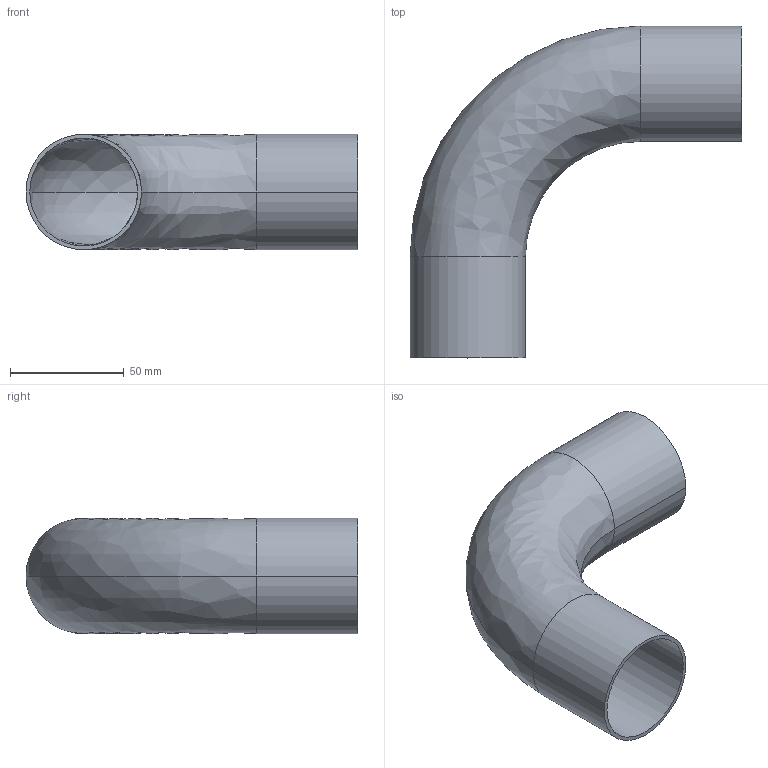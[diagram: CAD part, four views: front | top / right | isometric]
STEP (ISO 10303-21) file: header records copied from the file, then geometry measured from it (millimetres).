
FILE_DESCRIPTION (( 'STEP AP214' ), '1' );
FILE_NAME ('TE2S6L2.0-...STEP', '2016-05-22T10:28:20', ( 'eran' ), ( '' ), 'SwSTEP 2.0', 'SolidWorks 2016', '' );
FILE_SCHEMA (( 'AUTOMOTIVE_DESIGN' ));
Length unit declared in the file: millimetre
Products named in the file (1): TE2S6L2.0-..
Bounding box: 146.1 x 146.1 x 50.8 mm (x, y, z)
Volume: 53170.3 mm3; surface area: 64958.3 mm2
Topology: 1 solids, 1 shells, 14 faces, 28 edges, 16 vertices
Faces by surface type: cylinder 8, bspline 4, plane 2
Entity records: 450 total; most frequent: CARTESIAN_POINT 119, DIRECTION 70, ORIENTED_EDGE 56, AXIS2_PLACEMENT_3D 31, EDGE_CURVE 28, CIRCLE 20, VERTEX_POINT 16, EDGE_LOOP 16
